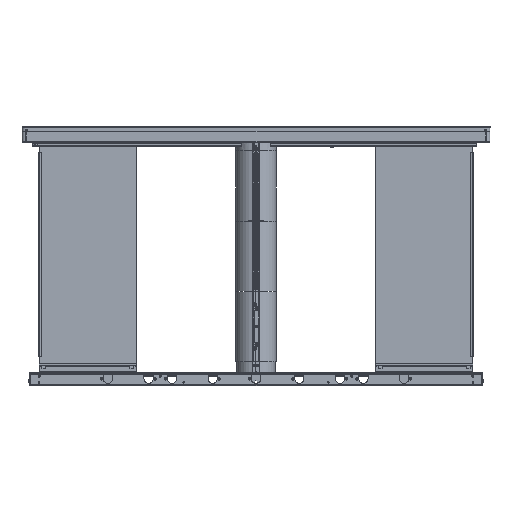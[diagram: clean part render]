
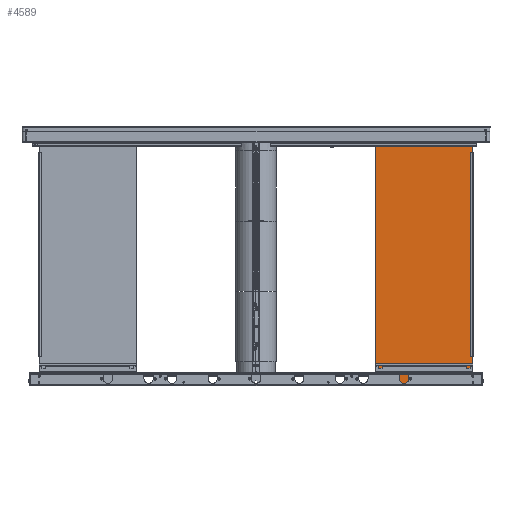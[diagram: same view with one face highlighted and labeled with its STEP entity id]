
A CAD part, top view. The second image highlights one B-rep face of the part: STEP entity #4589.
In plain terms, the highlighted planar face has unit normal (0, 0, 1) as drawn and (0, 0, -1) by its records, which use the part's own axes.
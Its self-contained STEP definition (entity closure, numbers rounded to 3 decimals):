
#249 = VECTOR ( 'NONE', #46781, 1000. ) ;
#842 = ORIENTED_EDGE ( 'NONE', *, *, #42957, .T. ) ;
#1696 = EDGE_CURVE ( 'NONE', #69268, #23397, #5767, .T. ) ;
#1995 = DIRECTION ( 'NONE',  ( 0., 0., 1. ) ) ;
#2487 = DIRECTION ( 'NONE',  ( 1., 0., 0. ) ) ;
#2523 = VERTEX_POINT ( 'NONE', #42680 ) ;
#2675 = FACE_OUTER_BOUND ( 'NONE', #40300, .T. ) ;
#4298 = ORIENTED_EDGE ( 'NONE', *, *, #57840, .T. ) ;
#4348 = AXIS2_PLACEMENT_3D ( 'NONE', #66090, #23886, #41971 ) ;
#4589 = ADVANCED_FACE ( 'NONE', ( #46428, #76977, #33978, #2675 ), #34383, .F. ) ;
#4760 = EDGE_CURVE ( 'NONE', #37149, #48677, #27372, .T. ) ;
#5406 = LINE ( 'NONE', #73251, #67491 ) ;
#5767 = LINE ( 'NONE', #47204, #249 ) ;
#6697 = CARTESIAN_POINT ( 'NONE',  ( -7.5, -427., -6. ) ) ;
#11540 = EDGE_CURVE ( 'NONE', #23397, #34983, #22750, .T. ) ;
#12367 = LINE ( 'NONE', #68174, #74761 ) ;
#13176 = DIRECTION ( 'NONE',  ( 0., -1., 0. ) ) ;
#13261 = CARTESIAN_POINT ( 'NONE',  ( 117.5, -427., -6. ) ) ;
#16361 = VERTEX_POINT ( 'NONE', #27763 ) ;
#16562 = EDGE_CURVE ( 'NONE', #64606, #69268, #12367, .T. ) ;
#17372 = ORIENTED_EDGE ( 'NONE', *, *, #42540, .T. ) ;
#17458 = CARTESIAN_POINT ( 'NONE',  ( 184., 457., -6. ) ) ;
#18468 = CARTESIAN_POINT ( 'NONE',  ( 0., -427., -6. ) ) ;
#19581 = ORIENTED_EDGE ( 'NONE', *, *, #40141, .T. ) ;
#20236 = EDGE_CURVE ( 'NONE', #61579, #16361, #68757, .T. ) ;
#20439 = EDGE_LOOP ( 'NONE', ( #34773, #71908 ) ) ;
#22328 = CARTESIAN_POINT ( 'NONE',  ( -185., -457.5, -6. ) ) ;
#22750 = LINE ( 'NONE', #46862, #66892 ) ;
#23397 = VERTEX_POINT ( 'NONE', #74547 ) ;
#23886 = DIRECTION ( 'NONE',  ( 0., 0., 1. ) ) ;
#25002 = EDGE_LOOP ( 'NONE', ( #19581, #26887 ) ) ;
#25488 = DIRECTION ( 'NONE',  ( 0., 0., 1. ) ) ;
#26887 = ORIENTED_EDGE ( 'NONE', *, *, #4760, .T. ) ;
#27372 = CIRCLE ( 'NONE', #4348, 7.5 ) ;
#27763 = CARTESIAN_POINT ( 'NONE',  ( 132.5, -427., -6. ) ) ;
#29231 = CIRCLE ( 'NONE', #71527, 7.5 ) ;
#33218 = CARTESIAN_POINT ( 'NONE',  ( 0., -427., -6. ) ) ;
#33978 = FACE_BOUND ( 'NONE', #25002, .T. ) ;
#34383 = PLANE ( 'NONE',  #69673 ) ;
#34423 = DIRECTION ( 'NONE',  ( 0., 0., 1. ) ) ;
#34711 = ORIENTED_EDGE ( 'NONE', *, *, #11540, .T. ) ;
#34773 = ORIENTED_EDGE ( 'NONE', *, *, #20236, .T. ) ;
#34983 = VERTEX_POINT ( 'NONE', #75431 ) ;
#37149 = VERTEX_POINT ( 'NONE', #61144 ) ;
#39627 = DIRECTION ( 'NONE',  ( 0., 0., 1. ) ) ;
#39837 = CARTESIAN_POINT ( 'NONE',  ( 125., -427., -6. ) ) ;
#40141 = EDGE_CURVE ( 'NONE', #48677, #37149, #73389, .T. ) ;
#40300 = EDGE_LOOP ( 'NONE', ( #34711, #17372, #57352, #45400 ) ) ;
#41930 = AXIS2_PLACEMENT_3D ( 'NONE', #18468, #72655, #61848 ) ;
#41971 = DIRECTION ( 'NONE',  ( 1., 0., 0. ) ) ;
#42540 = EDGE_CURVE ( 'NONE', #34983, #64606, #5406, .T. ) ;
#42680 = CARTESIAN_POINT ( 'NONE',  ( 7.5, -427., -6. ) ) ;
#42957 = EDGE_CURVE ( 'NONE', #2523, #72139, #72696, .T. ) ;
#43873 = AXIS2_PLACEMENT_3D ( 'NONE', #75883, #1995, #75092 ) ;
#45400 = ORIENTED_EDGE ( 'NONE', *, *, #1696, .T. ) ;
#45663 = DIRECTION ( 'NONE',  ( 1., 0., 0. ) ) ;
#46428 = FACE_BOUND ( 'NONE', #20439, .T. ) ;
#46781 = DIRECTION ( 'NONE',  ( -1., 0., 0. ) ) ;
#46862 = CARTESIAN_POINT ( 'NONE',  ( -184., -457.5, -6. ) ) ;
#47010 = AXIS2_PLACEMENT_3D ( 'NONE', #39837, #71507, #2487 ) ;
#47204 = CARTESIAN_POINT ( 'NONE',  ( -185., -457., -6. ) ) ;
#48677 = VERTEX_POINT ( 'NONE', #61791 ) ;
#48782 = DIRECTION ( 'NONE',  ( 1., 0., 0. ) ) ;
#48837 = CARTESIAN_POINT ( 'NONE',  ( 125., -427., -6. ) ) ;
#50031 = DIRECTION ( 'NONE',  ( 1., 0., 0. ) ) ;
#51105 = AXIS2_PLACEMENT_3D ( 'NONE', #33218, #34423, #45663 ) ;
#52529 = DIRECTION ( 'NONE',  ( 1., 0., 0. ) ) ;
#57352 = ORIENTED_EDGE ( 'NONE', *, *, #16562, .T. ) ;
#57840 = EDGE_CURVE ( 'NONE', #72139, #2523, #63921, .T. ) ;
#61144 = CARTESIAN_POINT ( 'NONE',  ( -117.5, -427., -6. ) ) ;
#61247 = EDGE_LOOP ( 'NONE', ( #4298, #842 ) ) ;
#61579 = VERTEX_POINT ( 'NONE', #13261 ) ;
#61791 = CARTESIAN_POINT ( 'NONE',  ( -132.5, -427., -6. ) ) ;
#61848 = DIRECTION ( 'NONE',  ( 1., 0., 0. ) ) ;
#63921 = CIRCLE ( 'NONE', #51105, 7.5 ) ;
#64606 = VERTEX_POINT ( 'NONE', #17458 ) ;
#66090 = CARTESIAN_POINT ( 'NONE',  ( -125., -427., -6. ) ) ;
#66892 = VECTOR ( 'NONE', #70526, 1000. ) ;
#67491 = VECTOR ( 'NONE', #48782, 1000. ) ;
#68174 = CARTESIAN_POINT ( 'NONE',  ( 184., -457.5, -6. ) ) ;
#68757 = CIRCLE ( 'NONE', #47010, 7.5 ) ;
#69268 = VERTEX_POINT ( 'NONE', #72146 ) ;
#69673 = AXIS2_PLACEMENT_3D ( 'NONE', #22328, #39627, #52529 ) ;
#70526 = DIRECTION ( 'NONE',  ( 0., 1., 0. ) ) ;
#71507 = DIRECTION ( 'NONE',  ( 0., 0., 1. ) ) ;
#71527 = AXIS2_PLACEMENT_3D ( 'NONE', #48837, #25488, #50031 ) ;
#71908 = ORIENTED_EDGE ( 'NONE', *, *, #77451, .T. ) ;
#72139 = VERTEX_POINT ( 'NONE', #6697 ) ;
#72146 = CARTESIAN_POINT ( 'NONE',  ( 184., -457., -6. ) ) ;
#72655 = DIRECTION ( 'NONE',  ( 0., 0., 1. ) ) ;
#72696 = CIRCLE ( 'NONE', #41930, 7.5 ) ;
#73251 = CARTESIAN_POINT ( 'NONE',  ( -185., 457., -6. ) ) ;
#73389 = CIRCLE ( 'NONE', #43873, 7.5 ) ;
#74547 = CARTESIAN_POINT ( 'NONE',  ( -184., -457., -6. ) ) ;
#74761 = VECTOR ( 'NONE', #13176, 1000. ) ;
#75092 = DIRECTION ( 'NONE',  ( 1., 0., 0. ) ) ;
#75431 = CARTESIAN_POINT ( 'NONE',  ( -184., 457., -6. ) ) ;
#75883 = CARTESIAN_POINT ( 'NONE',  ( -125., -427., -6. ) ) ;
#76977 = FACE_BOUND ( 'NONE', #61247, .T. ) ;
#77451 = EDGE_CURVE ( 'NONE', #16361, #61579, #29231, .T. ) ;
